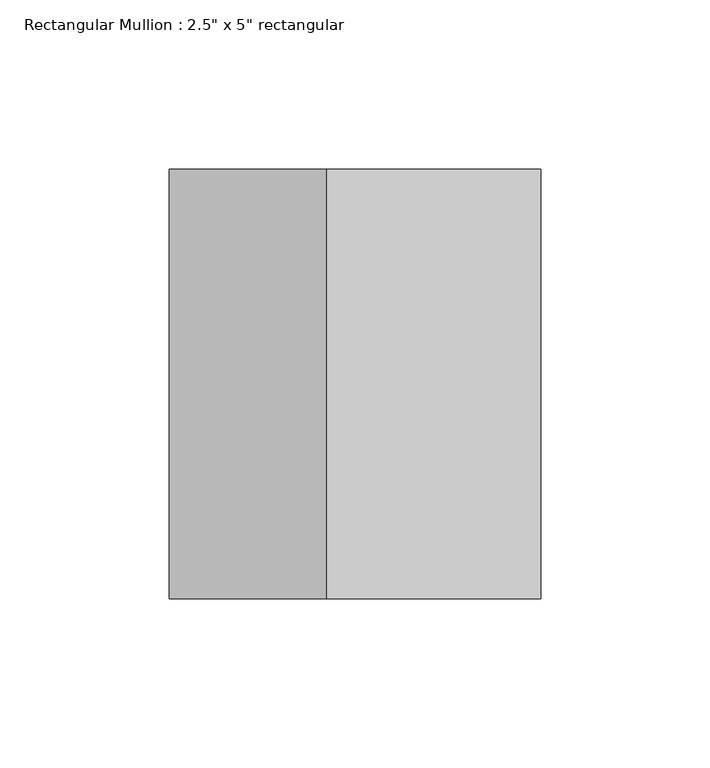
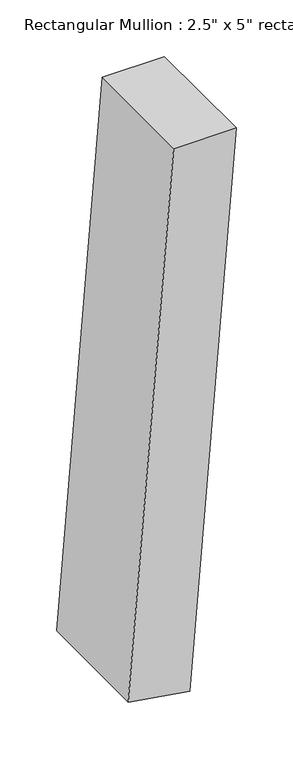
"""IFC4 building model written with IfcOpenShell, lengths in millimetres: member geometry."""

from ifc_helpers import new_model, si_unit, point, frame, frame_2d, origin, place, context, project, spatial, polyline, circle_curve, trimmed, segment, composite_curve, outline, extrude, source, transform, mapped, element, save


def member_da3023d3(model_context):
    return source(origin(), model_context, "Body", "SweptSolid", [
        extrude(outline(composite_curve([segment(trimmed(circle_curve(frame_2d((0.0, -3722.1588985)), 3722.1588985), [point((-591.0050335, -47.2194546))], [point((0.0, 0.0))], False, "CARTESIAN"), True, "CONTINUOUS"), segment(polyline([(0.0, 0.0), (0.0, -63.5)]), True, "CONTINUOUS"), segment(trimmed(circle_curve(frame_2d((0.0, -3722.1588985)), 3658.6588985), [point((0.0, -63.5))], [point((-580.9224925, -109.9138911))], True, "CARTESIAN"), True, "CONTINUOUS"), segment(polyline([(-580.9224925, -109.9138911), (-591.0050335, -47.2194546)]), True, "CONTINUOUS")], self_intersect=False)), frame((0.0, -63.5, 0.0), z_axis=(0.0, 1.0, 0.0), x_axis=(0.0, 0.0, 1.0)), (0.0, 0.0, 1.0), 127.0),
    ])


if __name__ == "__main__":
    model = new_model("IFC4")
    model_context = context("Model", 3, world=origin())
    ifc_project = project(units=[si_unit("LENGTHUNIT", "METRE", prefix="MILLI")], contexts=[model_context])
    site = spatial("IfcSite", under=ifc_project)
    building = spatial("IfcBuilding", under=site)
    placement = place(None, origin())
    member_shape = member_da3023d3(model_context)
    element("IfcMember", 1, ObjectType="Rectangular Mullion : 2.5\" x 5\" rectangular", at=placement, inside=building, context=model_context, shape_type="MappedRepresentation", body=[
        mapped(member_shape, transform((0.0, 0.0, 0.0), x_axis=(1.0, 0.0, 0.0), y_axis=(0.0, 1.0, 0.0), z_axis=(0.0, 0.0, 1.0))),
    ])
    save(model, "model.ifc")
